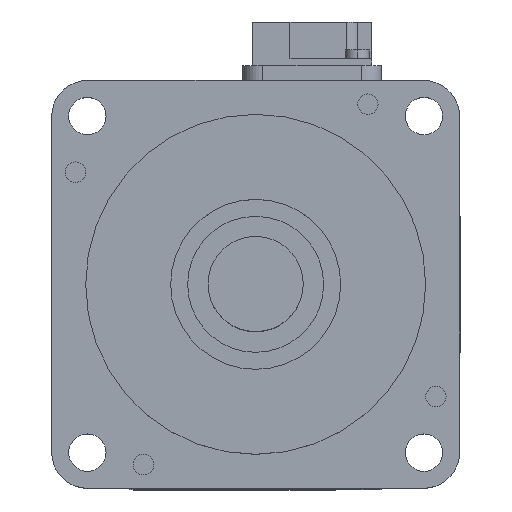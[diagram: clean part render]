
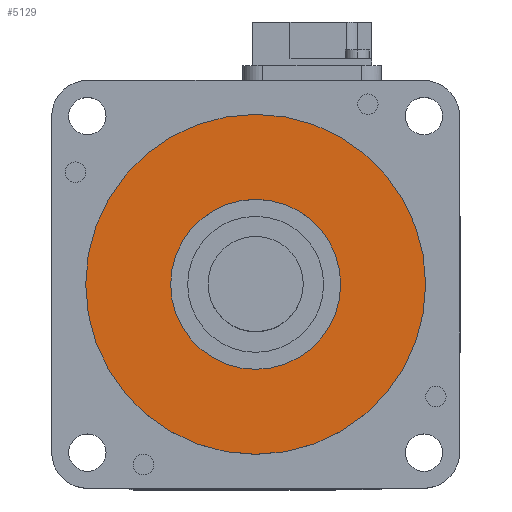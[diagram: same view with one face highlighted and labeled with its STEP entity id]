
A CAD part, top view. The second image highlights one B-rep face of the part: STEP entity #5129.
In plain terms, the highlighted planar face has unit normal (0, 0, 1).
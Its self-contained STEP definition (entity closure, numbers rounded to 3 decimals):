
#600 = EDGE_CURVE ( 'NONE', #605, #601, #7261, .T. ) ;
#601 = VERTEX_POINT ( 'NONE', #7257 ) ;
#605 = VERTEX_POINT ( 'NONE', #7316 ) ;
#664 = VERTEX_POINT ( 'NONE', #7384 ) ;
#667 = EDGE_CURVE ( 'NONE', #664, #668, #7443, .T. ) ;
#668 = VERTEX_POINT ( 'NONE', #7438 ) ;
#5129 = ADVANCED_FACE ( 'NONE', ( #14706, #14705 ), #14704, .T. ) ;
#5130 = EDGE_LOOP ( 'NONE', ( #5131, #5133 ) ) ;
#5131 = ORIENTED_EDGE ( 'NONE', *, *, #5132, .T. ) ;
#5132 = EDGE_CURVE ( 'NONE', #601, #605, #14699, .T. ) ;
#5133 = ORIENTED_EDGE ( 'NONE', *, *, #600, .T. ) ;
#5134 = EDGE_LOOP ( 'NONE', ( #5135, #5185 ) ) ;
#5135 = ORIENTED_EDGE ( 'NONE', *, *, #667, .F. ) ;
#5185 = ORIENTED_EDGE ( 'NONE', *, *, #5186, .F. ) ;
#5186 = EDGE_CURVE ( 'NONE', #668, #664, #14819, .T. ) ;
#7257 = CARTESIAN_POINT ( 'NONE',  ( -12.5, 0., 3. ) ) ;
#7258 = DIRECTION ( 'NONE',  ( -1., 0., 0. ) ) ;
#7259 = DIRECTION ( 'NONE',  ( 0., 0., -1. ) ) ;
#7260 = AXIS2_PLACEMENT_3D ( 'NONE', #7267, #7259, #7258 ) ;
#7261 = CIRCLE ( 'NONE', #7260, 12.5 ) ;
#7267 = CARTESIAN_POINT ( 'NONE',  ( 0., 0., 3. ) ) ;
#7316 = CARTESIAN_POINT ( 'NONE',  ( 12.5, 0., 3. ) ) ;
#7384 = CARTESIAN_POINT ( 'NONE',  ( -25., 0., 3. ) ) ;
#7438 = CARTESIAN_POINT ( 'NONE',  ( 25., 0., 3. ) ) ;
#7439 = DIRECTION ( 'NONE',  ( -1., 0., 0. ) ) ;
#7440 = DIRECTION ( 'NONE',  ( 0., 0., -1. ) ) ;
#7441 = CARTESIAN_POINT ( 'NONE',  ( 0., 0., 3. ) ) ;
#7442 = AXIS2_PLACEMENT_3D ( 'NONE', #7441, #7440, #7439 ) ;
#7443 = CIRCLE ( 'NONE', #7442, 25. ) ;
#14695 = DIRECTION ( 'NONE',  ( -1., 0., 0. ) ) ;
#14696 = DIRECTION ( 'NONE',  ( 0., 0., -1. ) ) ;
#14697 = CARTESIAN_POINT ( 'NONE',  ( 0., 0., 3. ) ) ;
#14698 = AXIS2_PLACEMENT_3D ( 'NONE', #14697, #14696, #14695 ) ;
#14699 = CIRCLE ( 'NONE', #14698, 12.5 ) ;
#14700 = DIRECTION ( 'NONE',  ( 1., 0., 0. ) ) ;
#14701 = DIRECTION ( 'NONE',  ( 0., 0., 1. ) ) ;
#14702 = CARTESIAN_POINT ( 'NONE',  ( 0., 25., 3. ) ) ;
#14703 = AXIS2_PLACEMENT_3D ( 'NONE', #14702, #14701, #14700 ) ;
#14704 = PLANE ( 'NONE',  #14703 ) ;
#14705 = FACE_OUTER_BOUND ( 'NONE', #5134, .T. ) ;
#14706 = FACE_BOUND ( 'NONE', #5130, .T. ) ;
#14811 = DIRECTION ( 'NONE',  ( -1., 0., 0. ) ) ;
#14812 = DIRECTION ( 'NONE',  ( 0., 0., -1. ) ) ;
#14813 = CARTESIAN_POINT ( 'NONE',  ( 0., 0., 3. ) ) ;
#14814 = AXIS2_PLACEMENT_3D ( 'NONE', #14813, #14812, #14811 ) ;
#14819 = CIRCLE ( 'NONE', #14814, 25. ) ;
